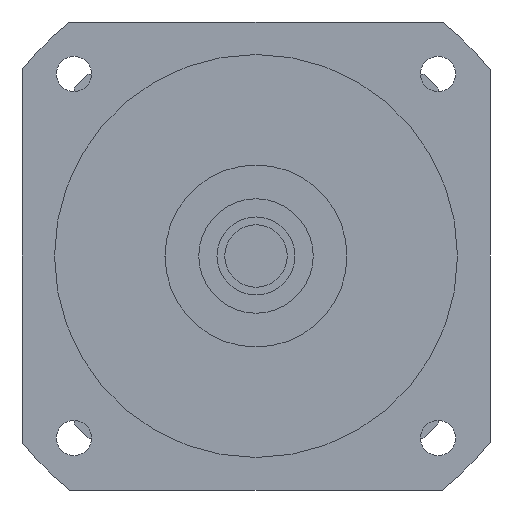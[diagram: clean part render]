
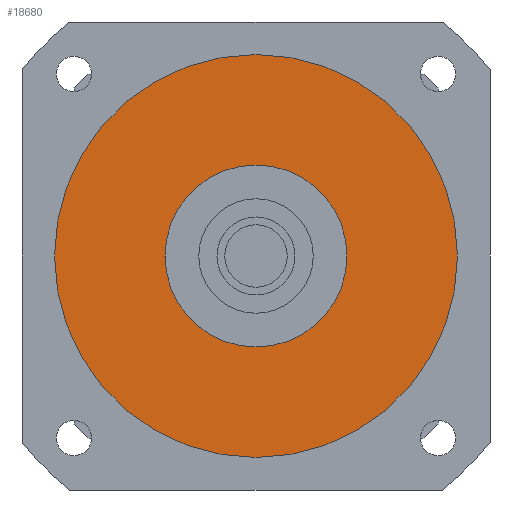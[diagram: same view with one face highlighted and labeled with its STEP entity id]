
A CAD part, left-side view. The second image highlights one B-rep face of the part: STEP entity #18680.
In plain terms, the highlighted planar face has unit normal (-1, 0, 0) as drawn and (0, 0, -1) by its records, which use the part's own axes.
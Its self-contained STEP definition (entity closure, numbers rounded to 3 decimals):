
#18100=CARTESIAN_POINT('',(77.5,0.,-59.7));
#18110=VERTEX_POINT('',#18100);
#18200=CARTESIAN_POINT('',(-77.5,0.,-59.7));
#18210=VERTEX_POINT('',#18200);
#18240=CARTESIAN_POINT('',(0.,0.,
-59.7));
#18250=DIRECTION('',(0.,0.,1.));
#18260=DIRECTION('',(0.,1.,0.));
#18270=AXIS2_PLACEMENT_3D('',#18240,#18250,#18260);
#18280=CIRCLE('',#18270,77.5);
#18290=CARTESIAN_POINT('',(0.,77.5,-59.7));
#18300=VERTEX_POINT('',#18290);
#18310=EDGE_CURVE('',#18300,#18210,#18280,.T.);
#18330=EDGE_CURVE('',#18110,#18300,#18280,.T.);
#18380=CARTESIAN_POINT('',(0.,0.,
-59.7));
#18390=DIRECTION('',(0.,0.,1.));
#18400=DIRECTION('',(-1.,0.,0.));
#18410=AXIS2_PLACEMENT_3D('',#18380,#18390,#18400);
#18420=PLANE('',#18410);
#18430=ORIENTED_EDGE('',*,*,#18310,.F.);
#18440=EDGE_CURVE('',#18210,#18110,#18280,.T.);
#18450=ORIENTED_EDGE('',*,*,#18440,.F.);
#18460=ORIENTED_EDGE('',*,*,#18330,.F.);
#18470=EDGE_LOOP('',(#18460,#18450,#18430));
#18480=FACE_OUTER_BOUND('',#18470,.T.);
#18490=CARTESIAN_POINT('',(0.,0.,
-59.7));
#18500=DIRECTION('',(0.,0.,1.));
#18510=DIRECTION('',(0.,1.,0.));
#18520=AXIS2_PLACEMENT_3D('',#18490,#18500,#18510);
#18530=CIRCLE('',#18520,35.);
#18540=CARTESIAN_POINT('',(-35.,0.,-59.7));
#18550=VERTEX_POINT('',#18540);
#18560=CARTESIAN_POINT('',(35.,0.,-59.7));
#18570=VERTEX_POINT('',#18560);
#18580=EDGE_CURVE('',#18550,#18570,#18530,.T.);
#18590=ORIENTED_EDGE('',*,*,#18580,.T.);
#18600=CARTESIAN_POINT('',(0.,35.,-59.7));
#18610=VERTEX_POINT('',#18600);
#18620=EDGE_CURVE('',#18610,#18550,#18530,.T.);
#18630=ORIENTED_EDGE('',*,*,#18620,.T.);
#18640=EDGE_CURVE('',#18570,#18610,#18530,.T.);
#18650=ORIENTED_EDGE('',*,*,#18640,.T.);
#18660=EDGE_LOOP('',(#18650,#18630,#18590));
#18670=FACE_BOUND('',#18660,.T.);
#18680=ADVANCED_FACE('',(#18480,#18670),#18420,.F.);
